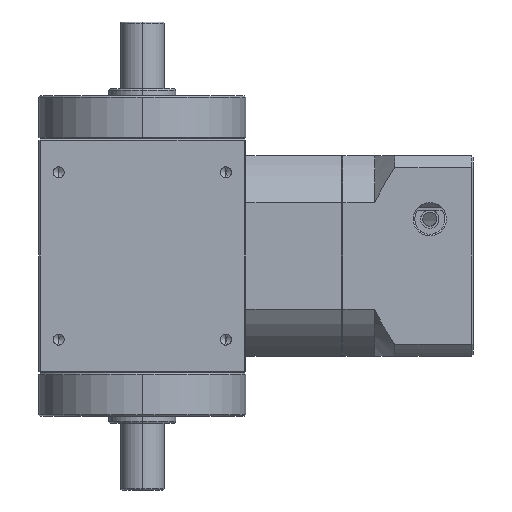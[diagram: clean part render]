
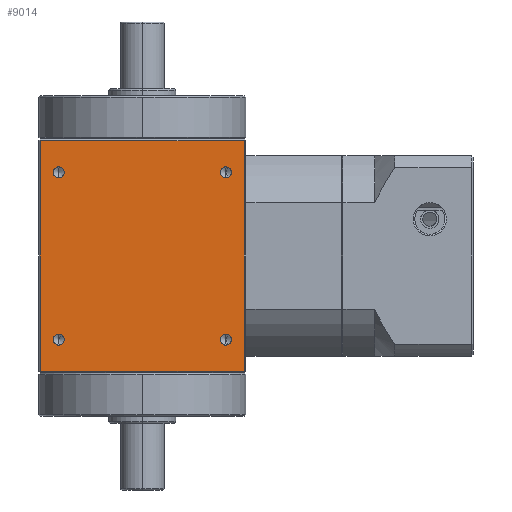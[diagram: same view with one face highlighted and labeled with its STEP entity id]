
A CAD part, left-side view. The second image highlights one B-rep face of the part: STEP entity #9014.
In plain terms, the highlighted planar face has unit normal (-1, 0, 0).
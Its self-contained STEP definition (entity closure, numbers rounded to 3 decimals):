
#26 = EDGE_CURVE ( 'NONE', #911, #910, #2317, .T. ) ;
#125 = EDGE_CURVE ( 'NONE', #1049, #830, #2453, .T. ) ;
#140 = EDGE_CURVE ( 'NONE', #1107, #998, #2476, .T. ) ;
#148 = EDGE_CURVE ( 'NONE', #1081, #1077, #2491, .T. ) ;
#733 = ORIENTED_EDGE ( 'NONE', *, *, #9139, .T. ) ;
#737 = ORIENTED_EDGE ( 'NONE', *, *, #9140, .T. ) ;
#740 = ORIENTED_EDGE ( 'NONE', *, *, #9141, .T. ) ;
#750 = ORIENTED_EDGE ( 'NONE', *, *, #9137, .F. ) ;
#756 = ORIENTED_EDGE ( 'NONE', *, *, #148, .F. ) ;
#761 = ORIENTED_EDGE ( 'NONE', *, *, #9136, .F. ) ;
#769 = ORIENTED_EDGE ( 'NONE', *, *, #9138, .T. ) ;
#770 = ORIENTED_EDGE ( 'NONE', *, *, #26, .F. ) ;
#773 = ORIENTED_EDGE ( 'NONE', *, *, #9134, .F. ) ;
#778 = ORIENTED_EDGE ( 'NONE', *, *, #9135, .F. ) ;
#783 = ORIENTED_EDGE ( 'NONE', *, *, #140, .F. ) ;
#784 = ORIENTED_EDGE ( 'NONE', *, *, #125, .F. ) ;
#830 = VERTEX_POINT ( 'NONE', #3739 ) ;
#910 = VERTEX_POINT ( 'NONE', #3819 ) ;
#911 = VERTEX_POINT ( 'NONE', #3820 ) ;
#985 = VERTEX_POINT ( 'NONE', #3894 ) ;
#998 = VERTEX_POINT ( 'NONE', #3907 ) ;
#1027 = VERTEX_POINT ( 'NONE', #3936 ) ;
#1046 = VERTEX_POINT ( 'NONE', #3955 ) ;
#1048 = VERTEX_POINT ( 'NONE', #3957 ) ;
#1049 = VERTEX_POINT ( 'NONE', #3958 ) ;
#1077 = VERTEX_POINT ( 'NONE', #3986 ) ;
#1081 = VERTEX_POINT ( 'NONE', #3990 ) ;
#1107 = VERTEX_POINT ( 'NONE', #4016 ) ;
#1614 = AXIS2_PLACEMENT_3D ( 'NONE', #8416, #8417, #8418 ) ;
#1648 = AXIS2_PLACEMENT_3D ( 'NONE', #2892, #2893, #2894 ) ;
#1651 = AXIS2_PLACEMENT_3D ( 'NONE', #2929, #2930, #2931 ) ;
#1653 = AXIS2_PLACEMENT_3D ( 'NONE', #2988, #2989, #2990 ) ;
#2317 = CIRCLE ( 'NONE', #1614, 1.65 ) ;
#2453 = CIRCLE ( 'NONE', #1648, 1.65 ) ;
#2476 = CIRCLE ( 'NONE', #1651, 1.65 ) ;
#2491 = CIRCLE ( 'NONE', #1653, 1.65 ) ;
#2892 = CARTESIAN_POINT ( 'NONE',  ( -31., 25., -25. ) ) ;
#2893 = DIRECTION ( 'NONE',  ( -1., 0., 0. ) ) ;
#2894 = DIRECTION ( 'NONE',  ( 0., 0., 1. ) ) ;
#2929 = CARTESIAN_POINT ( 'NONE',  ( -31., 25., 25. ) ) ;
#2930 = DIRECTION ( 'NONE',  ( -1., 0., 0. ) ) ;
#2931 = DIRECTION ( 'NONE',  ( 0., 0., 1. ) ) ;
#2988 = CARTESIAN_POINT ( 'NONE',  ( -31., -25., 25. ) ) ;
#2989 = DIRECTION ( 'NONE',  ( -1., 0., 0. ) ) ;
#2990 = DIRECTION ( 'NONE',  ( 0., 0., 1. ) ) ;
#3739 = CARTESIAN_POINT ( 'NONE',  ( -31., 25., -23.35 ) ) ;
#3819 = CARTESIAN_POINT ( 'NONE',  ( -31., -25., -23.35 ) ) ;
#3820 = CARTESIAN_POINT ( 'NONE',  ( -31., -25., -26.65 ) ) ;
#3894 = CARTESIAN_POINT ( 'NONE',  ( -31., -30.5, -34.5 ) ) ;
#3907 = CARTESIAN_POINT ( 'NONE',  ( -31., 25., 26.65 ) ) ;
#3936 = CARTESIAN_POINT ( 'NONE',  ( -31., 30.5, -34.5 ) ) ;
#3955 = CARTESIAN_POINT ( 'NONE',  ( -31., -30.5, 34.5 ) ) ;
#3957 = CARTESIAN_POINT ( 'NONE',  ( -31., 30.5, 34.5 ) ) ;
#3958 = CARTESIAN_POINT ( 'NONE',  ( -31., 25., -26.65 ) ) ;
#3986 = CARTESIAN_POINT ( 'NONE',  ( -31., -25., 26.65 ) ) ;
#3990 = CARTESIAN_POINT ( 'NONE',  ( -31., -25., 23.35 ) ) ;
#4016 = CARTESIAN_POINT ( 'NONE',  ( -31., 25., 23.35 ) ) ;
#5813 = FACE_BOUND ( 'NONE', #8292, .T. ) ;
#5814 = FACE_BOUND ( 'NONE', #8245, .T. ) ;
#5815 = FACE_BOUND ( 'NONE', #8022, .T. ) ;
#5816 = FACE_OUTER_BOUND ( 'NONE', #8248, .T. ) ;
#5818 = FACE_BOUND ( 'NONE', #8207, .T. ) ;
#6344 = DIRECTION ( 'NONE',  ( 1., 0., 0. ) ) ;
#6348 = PLANE ( 'NONE',  #6507 ) ;
#6350 = CARTESIAN_POINT ( 'NONE',  ( -31., -31., 35. ) ) ;
#6352 = DIRECTION ( 'NONE',  ( 0., 0., -1. ) ) ;
#6507 = AXIS2_PLACEMENT_3D ( 'NONE', #6350, #6344, #6352 ) ;
#7160 = LINE ( 'NONE', #7498, #7175 ) ;
#7167 = CIRCLE ( 'NONE', #7398, 1.65 ) ;
#7168 = CIRCLE ( 'NONE', #7399, 1.65 ) ;
#7169 = CIRCLE ( 'NONE', #7400, 1.65 ) ;
#7170 = CIRCLE ( 'NONE', #7401, 1.65 ) ;
#7171 = LINE ( 'NONE', #7492, #7173 ) ;
#7173 = VECTOR ( 'NONE', #7493, 1000. ) ;
#7174 = LINE ( 'NONE', #7503, #7177 ) ;
#7175 = VECTOR ( 'NONE', #7502, 1000. ) ;
#7176 = LINE ( 'NONE', #7505, #7179 ) ;
#7177 = VECTOR ( 'NONE', #7504, 1000. ) ;
#7179 = VECTOR ( 'NONE', #7506, 1000. ) ;
#7398 = AXIS2_PLACEMENT_3D ( 'NONE', #7486, #7487, #7488 ) ;
#7399 = AXIS2_PLACEMENT_3D ( 'NONE', #7489, #7490, #7491 ) ;
#7400 = AXIS2_PLACEMENT_3D ( 'NONE', #7494, #7495, #7496 ) ;
#7401 = AXIS2_PLACEMENT_3D ( 'NONE', #7499, #7500, #7501 ) ;
#7486 = CARTESIAN_POINT ( 'NONE',  ( -31., 25., -25. ) ) ;
#7487 = DIRECTION ( 'NONE',  ( -1., 0., 0. ) ) ;
#7488 = DIRECTION ( 'NONE',  ( 0., 0., 1. ) ) ;
#7489 = CARTESIAN_POINT ( 'NONE',  ( -31., 25., 25. ) ) ;
#7490 = DIRECTION ( 'NONE',  ( -1., 0., 0. ) ) ;
#7491 = DIRECTION ( 'NONE',  ( 0., 0., 1. ) ) ;
#7492 = CARTESIAN_POINT ( 'NONE',  ( -31., -31., -34.5 ) ) ;
#7493 = DIRECTION ( 'NONE',  ( 0., -1., 0. ) ) ;
#7494 = CARTESIAN_POINT ( 'NONE',  ( -31., -25., 25. ) ) ;
#7495 = DIRECTION ( 'NONE',  ( -1., 0., 0. ) ) ;
#7496 = DIRECTION ( 'NONE',  ( 0., 0., 1. ) ) ;
#7498 = CARTESIAN_POINT ( 'NONE',  ( -31., -30.5, 35. ) ) ;
#7499 = CARTESIAN_POINT ( 'NONE',  ( -31., -25., -25. ) ) ;
#7500 = DIRECTION ( 'NONE',  ( -1., 0., 0. ) ) ;
#7501 = DIRECTION ( 'NONE',  ( 0., 0., 1. ) ) ;
#7502 = DIRECTION ( 'NONE',  ( 0., 0., 1. ) ) ;
#7503 = CARTESIAN_POINT ( 'NONE',  ( -31., 31., 34.5 ) ) ;
#7504 = DIRECTION ( 'NONE',  ( 0., 1., 0. ) ) ;
#7505 = CARTESIAN_POINT ( 'NONE',  ( -31., 30.5, 35. ) ) ;
#7506 = DIRECTION ( 'NONE',  ( 0., 0., -1. ) ) ;
#8022 = EDGE_LOOP ( 'NONE', ( #773, #784 ) ) ;
#8207 = EDGE_LOOP ( 'NONE', ( #778, #783 ) ) ;
#8245 = EDGE_LOOP ( 'NONE', ( #761, #756 ) ) ;
#8248 = EDGE_LOOP ( 'NONE', ( #769, #733, #737, #740 ) ) ;
#8292 = EDGE_LOOP ( 'NONE', ( #750, #770 ) ) ;
#8416 = CARTESIAN_POINT ( 'NONE',  ( -31., -25., -25. ) ) ;
#8417 = DIRECTION ( 'NONE',  ( -1., 0., 0. ) ) ;
#8418 = DIRECTION ( 'NONE',  ( 0., 0., 1. ) ) ;
#9014 = ADVANCED_FACE ( 'NONE', ( #5815, #5818, #5814, #5813, #5816 ), #6348, .F. ) ;
#9134 = EDGE_CURVE ( 'NONE', #830, #1049, #7167, .T. ) ;
#9135 = EDGE_CURVE ( 'NONE', #998, #1107, #7168, .T. ) ;
#9136 = EDGE_CURVE ( 'NONE', #1077, #1081, #7169, .T. ) ;
#9137 = EDGE_CURVE ( 'NONE', #910, #911, #7170, .T. ) ;
#9138 = EDGE_CURVE ( 'NONE', #1027, #985, #7171, .T. ) ;
#9139 = EDGE_CURVE ( 'NONE', #985, #1046, #7160, .T. ) ;
#9140 = EDGE_CURVE ( 'NONE', #1046, #1048, #7174, .T. ) ;
#9141 = EDGE_CURVE ( 'NONE', #1048, #1027, #7176, .T. ) ;
